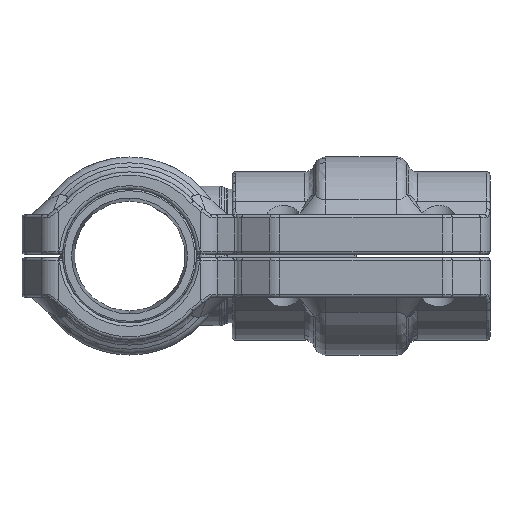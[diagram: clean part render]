
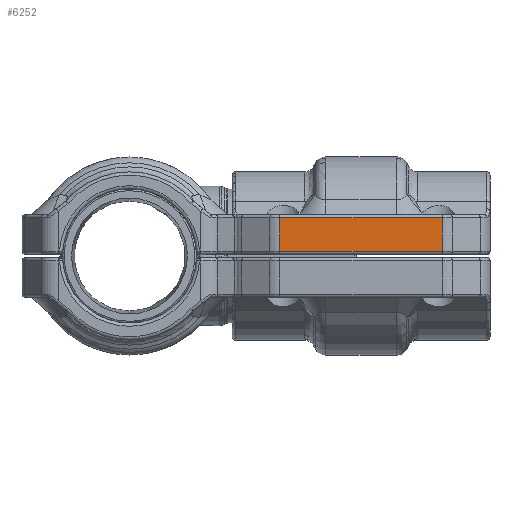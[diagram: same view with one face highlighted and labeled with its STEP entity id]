
A CAD part, left-side view. The second image highlights one B-rep face of the part: STEP entity #6252.
In plain terms, the highlighted planar face has unit normal (-1, 0, 0) as drawn and (0, -1, 0) by its records, which use the part's own axes.
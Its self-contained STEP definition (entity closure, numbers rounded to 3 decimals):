
#3698=DIRECTION('',(0.,0.,1.));
#3699=VECTOR('',#3698,10.);
#3700=CARTESIAN_POINT('',(24.521,-32.5,1.5));
#3701=LINE('',#3700,#3699);
#3719=DIRECTION('',(0.,0.,-1.));
#3720=VECTOR('',#3719,10.);
#3721=CARTESIAN_POINT('',(-24.521,-32.5,11.5));
#3722=LINE('',#3721,#3720);
#3918=DIRECTION('',(1.,0.,0.));
#3919=VECTOR('',#3918,49.042);
#3920=CARTESIAN_POINT('',(-24.521,-32.5,1.5));
#3921=LINE('',#3920,#3919);
#4705=DIRECTION('',(-1.,0.,0.));
#4706=VECTOR('',#4705,49.042);
#4707=CARTESIAN_POINT('',(24.521,-32.5,11.5));
#4708=LINE('',#4707,#4706);
#4926=CARTESIAN_POINT('',(24.521,-32.5,1.5));
#4927=CARTESIAN_POINT('',(24.521,-32.5,11.5));
#4928=VERTEX_POINT('',#4926);
#4929=VERTEX_POINT('',#4927);
#4930=CARTESIAN_POINT('',(-24.521,-32.5,11.5));
#4931=CARTESIAN_POINT('',(-24.521,-32.5,1.5));
#4932=VERTEX_POINT('',#4930);
#4933=VERTEX_POINT('',#4931);
#6238=CARTESIAN_POINT('',(16.9,-32.5,7.5));
#6239=DIRECTION('',(0.,-1.,0.));
#6240=DIRECTION('',(-1.,0.,0.));
#6241=AXIS2_PLACEMENT_3D('',#6238,#6239,#6240);
#6242=PLANE('',#6241);
#6244=ORIENTED_EDGE('',*,*,#6243,.F.);
#6246=ORIENTED_EDGE('',*,*,#6245,.F.);
#6247=ORIENTED_EDGE('',*,*,#6228,.F.);
#6249=ORIENTED_EDGE('',*,*,#6248,.F.);
#6250=EDGE_LOOP('',(#6244,#6246,#6247,#6249));
#6251=FACE_OUTER_BOUND('',#6250,.F.);
#6228=EDGE_CURVE('',#4928,#4929,#3701,.T.);
#6243=EDGE_CURVE('',#4932,#4933,#3722,.T.);
#6245=EDGE_CURVE('',#4929,#4932,#4708,.T.);
#6248=EDGE_CURVE('',#4933,#4928,#3921,.T.);
#6252=ADVANCED_FACE('',(#6251),#6242,.T.);
